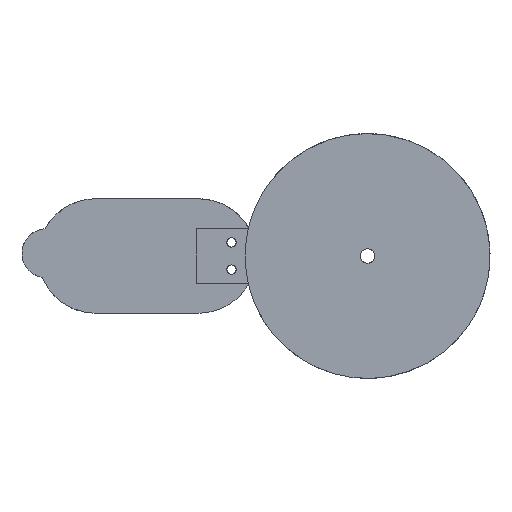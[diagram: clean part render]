
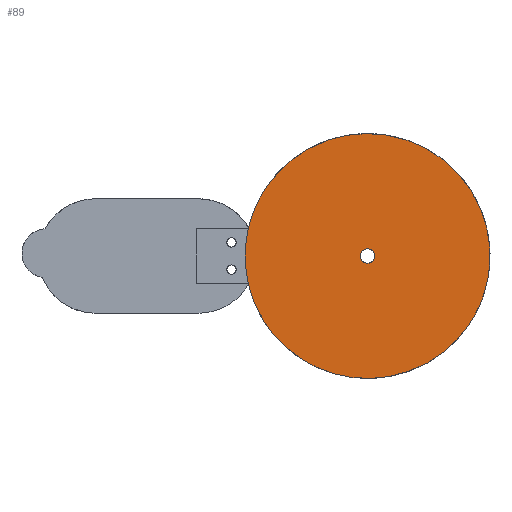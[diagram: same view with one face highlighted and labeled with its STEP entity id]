
A CAD part, front view. The second image highlights one B-rep face of the part: STEP entity #89.
In plain terms, the highlighted planar face has unit normal (0, -1, 0).
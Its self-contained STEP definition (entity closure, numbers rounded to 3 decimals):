
#20=DIRECTION('',(1.0,0.,0.0));
#21=DIRECTION('',(0.,-1.0,0.));
#22=CARTESIAN_POINT('',(175.,6.,268.024));
#23=AXIS2_PLACEMENT_3D('',#22,#21,#20);
#24=PLANE('',#23);
#25=CARTESIAN_POINT('',(222.65,6.,315.));
#26=CARTESIAN_POINT('',(222.65,6.,314.117));
#27=CARTESIAN_POINT('',(221.325,6.,312.35));
#28=CARTESIAN_POINT('',(218.675,6.,312.35));
#29=CARTESIAN_POINT('',(217.35,6.,314.117));
#30=CARTESIAN_POINT('',(217.35,6.,315.));
#31=(BOUNDED_CURVE()B_SPLINE_CURVE(2,(#30,#29,#28,#27,#26,#25),.UNSPECIFIED.,.U.,.U.)B_SPLINE_CURVE_WITH_KNOTS((3,1,1,1,3),(0.0,0.25,0.5,0.75,1.0),.UNSPECIFIED.)CURVE()GEOMETRIC_REPRESENTATION_ITEM()RATIONAL_B_SPLINE_CURVE((1.0,0.75,0.5,0.5,0.75,1.0))REPRESENTATION_ITEM(''));
#32=CARTESIAN_POINT('',(222.65,6.,315.));
#33=VERTEX_POINT('',#32);
#34=VERTEX_POINT('',#30);
#35=EDGE_CURVE('',#34,#33,#31,.T.);
#36=ORIENTED_EDGE('',*,*,#35,.F.);
#37=CARTESIAN_POINT('',(217.35,6.,315.));
#38=CARTESIAN_POINT('',(217.35,6.,315.883));
#39=CARTESIAN_POINT('',(218.675,6.,317.65));
#40=CARTESIAN_POINT('',(221.325,6.,317.65));
#41=CARTESIAN_POINT('',(222.65,6.,315.883));
#42=(BOUNDED_CURVE()B_SPLINE_CURVE(2,(#32,#41,#40,#39,#38,#37),.UNSPECIFIED.,.U.,.U.)B_SPLINE_CURVE_WITH_KNOTS((3,1,1,1,3),(0.0,0.25,0.5,0.75,1.0),.UNSPECIFIED.)CURVE()GEOMETRIC_REPRESENTATION_ITEM()RATIONAL_B_SPLINE_CURVE((1.0,0.75,0.5,0.5,0.75,1.0))REPRESENTATION_ITEM(''));
#43=EDGE_CURVE('',#33,#34,#42,.T.);
#44=ORIENTED_EDGE('',*,*,#43,.F.);
#45=EDGE_LOOP('',(#44,#36));
#46=FACE_BOUND('',#45,.T.);
#47=CARTESIAN_POINT('',(176.125,6.,325.));
#48=CARTESIAN_POINT('',(175.566,6.,322.547));
#49=CARTESIAN_POINT('',(175.,6.,317.532));
#50=CARTESIAN_POINT('',(175.,6.,312.468));
#51=CARTESIAN_POINT('',(175.566,6.,307.453));
#52=CARTESIAN_POINT('',(176.125,6.,305.));
#53=(BOUNDED_CURVE()B_SPLINE_CURVE(2,(#52,#51,#50,#49,#48,#47),.UNSPECIFIED.,.U.,.U.)B_SPLINE_CURVE_WITH_KNOTS((3,1,1,1,3),(0.0,0.25,0.5,0.75,1.0),.UNSPECIFIED.)CURVE()GEOMETRIC_REPRESENTATION_ITEM()RATIONAL_B_SPLINE_CURVE((1.0,0.994,0.987,0.987,0.994,1.0))REPRESENTATION_ITEM(''));
#54=CARTESIAN_POINT('',(176.125,6.,325.));
#55=VERTEX_POINT('',#54);
#56=VERTEX_POINT('',#52);
#57=EDGE_CURVE('',#56,#55,#53,.T.);
#58=ORIENTED_EDGE('',*,*,#57,.F.);
#59=CARTESIAN_POINT('',(183.196,6.,340.893));
#60=CARTESIAN_POINT('',(181.939,6.,339.106));
#61=CARTESIAN_POINT('',(179.778,6.,335.297));
#62=CARTESIAN_POINT('',(177.993,6.,331.286));
#63=CARTESIAN_POINT('',(176.611,6.,327.13));
#64=(BOUNDED_CURVE()B_SPLINE_CURVE(2,(#54,#63,#62,#61,#60,#59),.UNSPECIFIED.,.U.,.U.)B_SPLINE_CURVE_WITH_KNOTS((3,1,1,1,3),(0.0,0.25,0.5,0.75,1.0),.UNSPECIFIED.)CURVE()GEOMETRIC_REPRESENTATION_ITEM()RATIONAL_B_SPLINE_CURVE((1.0,0.995,0.991,0.991,0.995,1.0))REPRESENTATION_ITEM(''));
#65=CARTESIAN_POINT('',(183.196,6.,340.893));
#66=VERTEX_POINT('',#65);
#67=EDGE_CURVE('',#55,#66,#64,.T.);
#68=ORIENTED_EDGE('',*,*,#67,.F.);
#69=CARTESIAN_POINT('',(256.804,6.,289.107));
#70=CARTESIAN_POINT('',(265.435,6.,301.375));
#71=CARTESIAN_POINT('',(264.295,6.,338.857));
#72=CARTESIAN_POINT('',(227.491,6.,364.751));
#73=CARTESIAN_POINT('',(191.827,6.,353.161));
#74=(BOUNDED_CURVE()B_SPLINE_CURVE(2,(#65,#73,#72,#71,#70,#69),.UNSPECIFIED.,.U.,.U.)B_SPLINE_CURVE_WITH_KNOTS((3,1,1,1,3),(0.0,0.25,0.5,0.75,1.0),.UNSPECIFIED.)CURVE()GEOMETRIC_REPRESENTATION_ITEM()RATIONAL_B_SPLINE_CURVE((1.0,0.75,0.5,0.5,0.75,1.0))REPRESENTATION_ITEM(''));
#75=CARTESIAN_POINT('',(256.804,6.,289.107));
#76=VERTEX_POINT('',#75);
#77=EDGE_CURVE('',#66,#76,#74,.T.);
#78=ORIENTED_EDGE('',*,*,#77,.F.);
#79=CARTESIAN_POINT('',(176.125,6.,305.));
#80=CARTESIAN_POINT('',(178.807,6.,293.232));
#81=CARTESIAN_POINT('',(196.962,6.,273.674));
#82=CARTESIAN_POINT('',(225.643,6.,268.024));
#83=CARTESIAN_POINT('',(249.859,6.,279.235));
#84=(BOUNDED_CURVE()B_SPLINE_CURVE(2,(#75,#83,#82,#81,#80,#79),.UNSPECIFIED.,.U.,.U.)B_SPLINE_CURVE_WITH_KNOTS((3,1,1,1,3),(0.0,0.25,0.5,0.75,1.0),.UNSPECIFIED.)CURVE()GEOMETRIC_REPRESENTATION_ITEM()RATIONAL_B_SPLINE_CURVE((1.0,0.852,0.703,0.703,0.852,1.0))REPRESENTATION_ITEM(''));
#85=EDGE_CURVE('',#76,#56,#84,.T.);
#86=ORIENTED_EDGE('',*,*,#85,.F.);
#87=EDGE_LOOP('',(#86,#78,#68,#58));
#88=FACE_BOUND('',#87,.T.);
#89=ADVANCED_FACE('',(#88,#46),#24,.T.);
